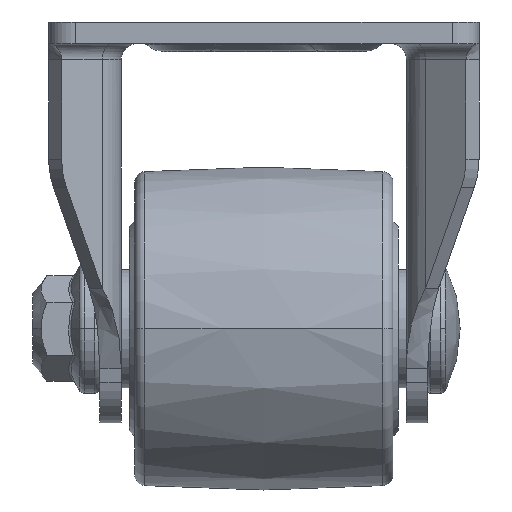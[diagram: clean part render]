
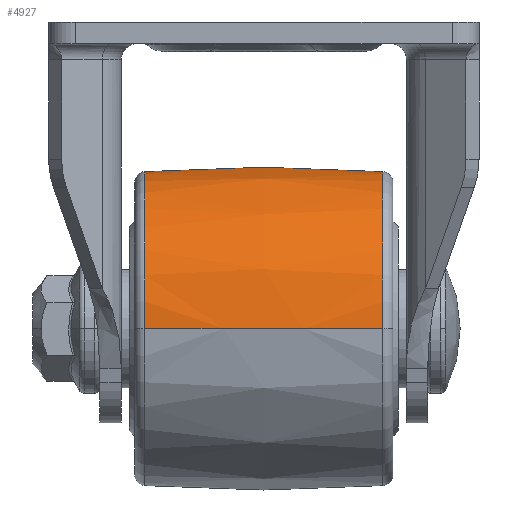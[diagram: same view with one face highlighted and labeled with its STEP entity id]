
A CAD part, left-side view. The second image highlights one B-rep face of the part: STEP entity #4927.
In plain terms, the highlighted free-form (B-spline) face has degree [2, 2] with [3, 9] control points.
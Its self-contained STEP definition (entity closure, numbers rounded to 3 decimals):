
#731=CARTESIAN_POINT('',(-29.181,22.148,-18.5));
#732=VERTEX_POINT('',#731);
#749=CARTESIAN_POINT('',(29.181,22.148,-18.5));
#750=VERTEX_POINT('',#749);
#803=CARTESIAN_POINT('',(-29.181,-22.148,-18.5));
#804=VERTEX_POINT('',#803);
#805=CARTESIAN_POINT('',(270.,0.,-18.5));
#806=DIRECTION('',(0.0,0.0,1.0));
#807=DIRECTION('',(-1.0,0.0,0.0));
#808=AXIS2_PLACEMENT_3D('',#805,#806,#807);
#809=CIRCLE('',#808,300.0);
#810=EDGE_CURVE('',#732,#804,#809,.T.);
#813=CARTESIAN_POINT('',(29.181,-22.148,-18.5));
#814=VERTEX_POINT('',#813);
#815=CARTESIAN_POINT('',(-270.,0.,-18.5));
#816=DIRECTION('',(0.0,0.0,-1.0));
#817=DIRECTION('',(1.0,0.0,0.0));
#818=AXIS2_PLACEMENT_3D('',#815,#816,#817);
#819=CIRCLE('',#818,300.0);
#820=EDGE_CURVE('',#750,#814,#819,.T.);
#4851=CARTESIAN_POINT('',(0.,-22.148,10.681));
#4852=VERTEX_POINT('',#4851);
#4853=CARTESIAN_POINT('',(0.,-22.148,-18.5));
#4854=DIRECTION('',(0.0,1.0,0.0));
#4855=DIRECTION('',(0.0,0.0,1.0));
#4856=AXIS2_PLACEMENT_3D('',#4853,#4854,#4855);
#4857=CIRCLE('',#4856,29.181);
#4858=EDGE_CURVE('',#4852,#814,#4857,.T.);
#4860=CARTESIAN_POINT('',(0.,-22.148,-18.5));
#4861=DIRECTION('',(0.0,1.0,0.0));
#4862=DIRECTION('',(0.0,0.0,1.0));
#4863=AXIS2_PLACEMENT_3D('',#4860,#4861,#4862);
#4864=CIRCLE('',#4863,29.181);
#4865=EDGE_CURVE('',#804,#4852,#4864,.T.);
#4870=CARTESIAN_POINT('',(29.181,-22.148,-18.5));
#4871=CARTESIAN_POINT('',(30.821,0.,-18.5));
#4872=CARTESIAN_POINT('',(29.181,22.148,-18.5));
#4873=CARTESIAN_POINT('',(29.181,-22.148,10.681));
#4874=CARTESIAN_POINT('',(30.821,0.,12.321));
#4875=CARTESIAN_POINT('',(29.181,22.148,10.681));
#4876=CARTESIAN_POINT('',(0.,-22.148,10.681));
#4877=CARTESIAN_POINT('',(0.,0.,12.321));
#4878=CARTESIAN_POINT('',(0.,22.148,10.681));
#4879=CARTESIAN_POINT('',(-29.181,-22.148,10.681));
#4880=CARTESIAN_POINT('',(-30.821,0.,12.321));
#4881=CARTESIAN_POINT('',(-29.181,22.148,10.681));
#4882=CARTESIAN_POINT('',(-29.181,-22.148,-18.5));
#4883=CARTESIAN_POINT('',(-30.821,0.,-18.5));
#4884=CARTESIAN_POINT('',(-29.181,22.148,-18.5));
#4885=CARTESIAN_POINT('',(-29.181,-22.148,-47.681));
#4886=CARTESIAN_POINT('',(-30.821,0.,-49.321));
#4887=CARTESIAN_POINT('',(-29.181,22.148,-47.681));
#4888=CARTESIAN_POINT('',(0.,-22.148,-47.681));
#4889=CARTESIAN_POINT('',(0.,0.,-49.321));
#4890=CARTESIAN_POINT('',(0.,22.148,-47.681));
#4891=CARTESIAN_POINT('',(29.181,-22.148,-47.681));
#4892=CARTESIAN_POINT('',(30.821,0.,-49.321));
#4893=CARTESIAN_POINT('',(29.181,22.148,-47.681));
#4894=CARTESIAN_POINT('',(29.181,-22.148,-18.5));
#4895=CARTESIAN_POINT('',(30.821,0.,-18.5));
#4896=CARTESIAN_POINT('',(29.181,22.148,-18.5));
#4904=(BOUNDED_SURFACE()B_SPLINE_SURFACE(2,2,((#4870,#4873,#4876,#4879,#4882,#4885,#4888,#4891,#4894),(#4871,#4874,#4877,#4880,#4883,#4886,#4889,#4892,#4895),(#4872,#4875,#4878,#4881,#4884,#4887,#4890,#4893,#4896)),.UNSPECIFIED.,.F.,.T.,.U.)B_SPLINE_SURFACE_WITH_KNOTS((3,3),(3,2,2,2,3),(-0.074,0.074),(0.0,1.571,3.142,4.712,6.283),.UNSPECIFIED.)GEOMETRIC_REPRESENTATION_ITEM()RATIONAL_B_SPLINE_SURFACE(((1.0,0.707,1.0,0.707,1.0,0.707,1.0,0.707,1.0),(0.997,0.705,0.997,0.705,0.997,0.705,0.997,0.705,0.997),(1.0,0.707,1.0,0.707,1.0,0.707,1.0,0.707,1.0)))REPRESENTATION_ITEM('')SURFACE());
#4905=ORIENTED_EDGE('',*,*,#810,.T.);
#4906=ORIENTED_EDGE('',*,*,#4865,.T.);
#4907=ORIENTED_EDGE('',*,*,#4858,.T.);
#4908=ORIENTED_EDGE('',*,*,#820,.F.);
#4909=CARTESIAN_POINT('',(0.,22.148,10.681));
#4910=VERTEX_POINT('',#4909);
#4911=CARTESIAN_POINT('',(0.,22.148,-18.5));
#4912=DIRECTION('',(0.0,1.0,0.0));
#4913=DIRECTION('',(0.0,0.0,1.0));
#4914=AXIS2_PLACEMENT_3D('',#4911,#4912,#4913);
#4915=CIRCLE('',#4914,29.181);
#4916=EDGE_CURVE('',#4910,#750,#4915,.T.);
#4917=ORIENTED_EDGE('',*,*,#4916,.F.);
#4918=CARTESIAN_POINT('',(0.,22.148,-18.5));
#4919=DIRECTION('',(0.0,1.0,0.0));
#4920=DIRECTION('',(0.0,0.0,1.0));
#4921=AXIS2_PLACEMENT_3D('',#4918,#4919,#4920);
#4922=CIRCLE('',#4921,29.181);
#4923=EDGE_CURVE('',#732,#4910,#4922,.T.);
#4924=ORIENTED_EDGE('',*,*,#4923,.F.);
#4925=EDGE_LOOP('',(#4905,#4906,#4907,#4908,#4917,#4924));
#4926=FACE_OUTER_BOUND('',#4925,.T.);
#4927=ADVANCED_FACE('',(#4926),#4904,.T.);
